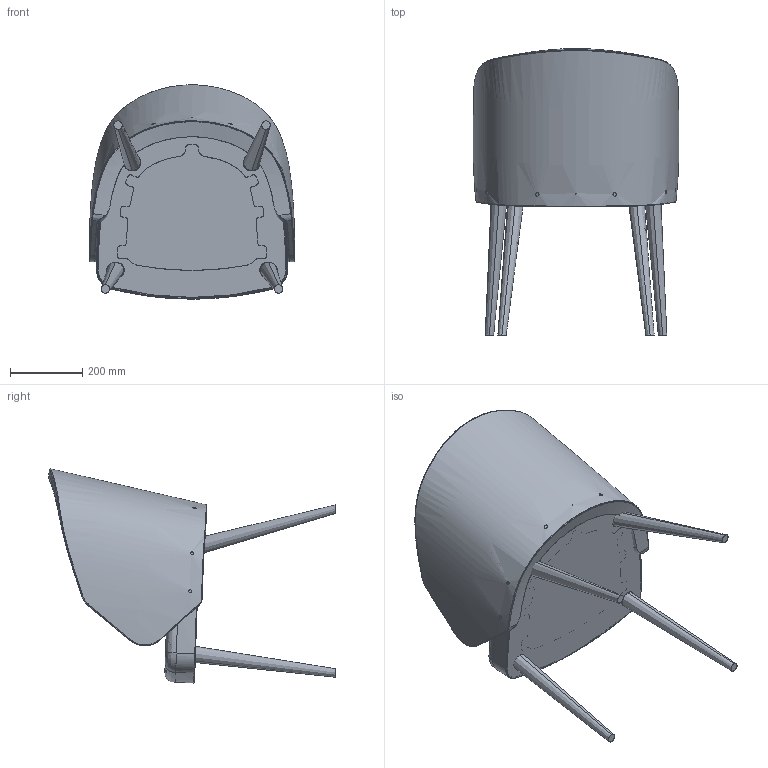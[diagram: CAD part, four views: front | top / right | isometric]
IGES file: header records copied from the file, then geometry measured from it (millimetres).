
Start section: SolidWorks IGES file using analytic representation for surfaces
Global section: file name: C:\Users\emanuel\Documents\TRABALHO\DESENHO TÉCNICO\JMS\Catalogo ALLseating 2016\Cadeiras__Cadeiroes_Bancos_Poltronas_alissas_etc\Edna_Lana_Alina\Cadeirão\A970C.IGS; native system: SolidWorks 2017; preprocessor: SolidWorks 2017; author: Emanuel; date: 170531.162624; units: millimetre
Bounding box: 569.59 x 793.99 x 593.59 mm (x, y, z)
Surface area: 2241373.5 mm2 (no closed solid volume)
Topology: 0 solids, 0 shells, 1459 faces, 18847 edges, 18768 vertices
Faces by surface type: bspline 762, revolution 697
